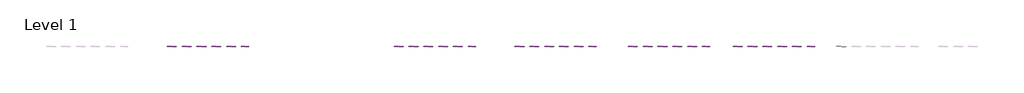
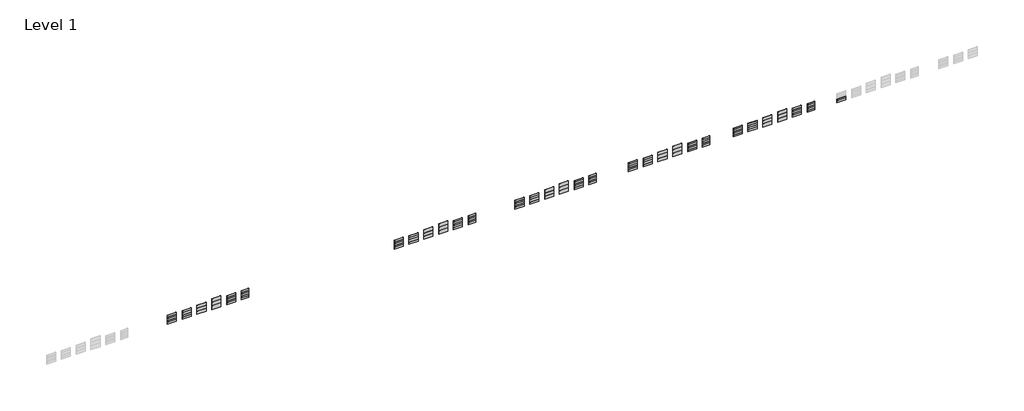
# One storey, part 4 of 7: 127 plates.
"""IFC4 building model written with IfcOpenShell, lengths in millimetres."""

from ifc_helpers import new_model, si_unit, origin, place, context, project, spatial, transform, mapped, element, save
from components import s001_satin_white_12mm_60b0a342, s001_satin_white_12mm_af0daad2, s001_satin_white_12mm_b3103b5f, plate_547342df, s001_satin_white_12mm_c1b55f6d, s001_satin_white_12mm_d668b75a, s001_satin_white_12mm_d8c75ca1, s001_satin_white_12mm_670b1509, s001_satin_white_20mm_e5290f1d, plate_eaecce36, s001_satin_white_20mm_25284a5f, plate_eb5be41b

model = new_model("IFC4")

# Units and contexts
model_context = context("Model", 3, world=origin())
ifc_project = project(units=[si_unit("LENGTHUNIT", "METRE", prefix="MILLI")], contexts=[model_context])

# Site, building, storey
site = spatial("IfcSite", under=ifc_project)
building = spatial("IfcBuilding", under=site)
storey = spatial("IfcBuildingStorey", under=building, Name="Level 1", Elevation=0.0)

# Plates
placement = place(None, origin())
s001_satin_white_12mm_shape = s001_satin_white_12mm_60b0a342(model_context)
element("IfcPlate", 1, ObjectType="Curtain-Panels_Outdoor-Material_HI-MACS_Solids : S102_Babylon-Beige_12mm", at=placement, inside=storey, context=model_context, shape_type="MappedRepresentation", body=[
    mapped(s001_satin_white_12mm_shape, transform((581315.8858072, 1061.3187116, 0.0), x_axis=(1.0, 0.0, 0.0), y_axis=(0.0, 1.0, 0.0), z_axis=(0.0, 0.0, 1.0))),
])
element("IfcPlate", 2, ObjectType="Curtain-Panels_Outdoor-Material_HI-MACS_Solids : S102_Babylon-Beige_12mm", at=placement, inside=storey, context=model_context, shape_type="MappedRepresentation", body=[
    mapped(s001_satin_white_12mm_shape, transform((581315.8858072, 1061.3187116, 760.0), x_axis=(1.0, 0.0, 0.0), y_axis=(0.0, 1.0, 0.0), z_axis=(0.0, 0.0, 1.0))),
])
element("IfcPlate", 3, ObjectType="Curtain-Panels_Outdoor-Material_HI-MACS_Solids : S102_Babylon-Beige_12mm", at=placement, inside=storey, context=model_context, shape_type="MappedRepresentation", body=[
    mapped(s001_satin_white_12mm_shape, transform((581315.8858072, 1061.3187116, 1520.0), x_axis=(1.0, 0.0, 0.0), y_axis=(0.0, 1.0, 0.0), z_axis=(0.0, 0.0, 1.0))),
])
element("IfcPlate", 4, ObjectType="Curtain-Panels_Outdoor-Material_HI-MACS_Solids : S102_Babylon-Beige_12mm", at=placement, inside=storey, context=model_context, shape_type="MappedRepresentation", body=[
    mapped(s001_satin_white_12mm_shape, transform((581315.8858072, 1061.3187116, 2280.0), x_axis=(1.0, 0.0, 0.0), y_axis=(0.0, 1.0, 0.0), z_axis=(0.0, 0.0, 1.0))),
])
s001_satin_white_12mm_2_shape = s001_satin_white_12mm_af0daad2(model_context)
element("IfcPlate", 5, ObjectType="Curtain-Panels_Outdoor-Material_HI-MACS_Solids : S102_Babylon-Beige_12mm", at=placement, inside=storey, context=model_context, shape_type="MappedRepresentation", body=[
    mapped(s001_satin_white_12mm_2_shape, transform((581315.8858072, 1061.3187116, 3040.0), x_axis=(1.0, 0.0, 0.0), y_axis=(0.0, 1.0, 0.0), z_axis=(0.0, 0.0, 1.0))),
])
s001_satin_white_12mm_3_shape = s001_satin_white_12mm_b3103b5f(model_context)
element("IfcPlate", 6, ObjectType="Curtain-Panels_Outdoor-Material_HI-MACS_Solids : S102_Babylon-Beige_12mm", at=placement, inside=storey, context=model_context, shape_type="MappedRepresentation", body=[
    mapped(s001_satin_white_12mm_3_shape, transform((587315.8858072, 1061.3187116, 0.0), x_axis=(1.0, 0.0, 0.0), y_axis=(0.0, 1.0, 0.0), z_axis=(0.0, 0.0, 1.0))),
])
element("IfcPlate", 7, ObjectType="Curtain-Panels_Outdoor-Material_HI-MACS_Solids : S102_Babylon-Beige_12mm", at=placement, inside=storey, context=model_context, shape_type="MappedRepresentation", body=[
    mapped(s001_satin_white_12mm_3_shape, transform((587315.8858072, 1061.3187116, 910.0), x_axis=(1.0, 0.0, 0.0), y_axis=(0.0, 1.0, 0.0), z_axis=(0.0, 0.0, 1.0))),
])
element("IfcPlate", 8, ObjectType="Curtain-Panels_Outdoor-Material_HI-MACS_Solids : S102_Babylon-Beige_12mm", at=placement, inside=storey, context=model_context, shape_type="MappedRepresentation", body=[
    mapped(s001_satin_white_12mm_3_shape, transform((587315.8858072, 1061.3187116, 1820.0), x_axis=(1.0, 0.0, 0.0), y_axis=(0.0, 1.0, 0.0), z_axis=(0.0, 0.0, 1.0))),
])
plate_shape = plate_547342df(model_context)
element("IfcPlate", 9, ObjectType="Curtain-Panels_Outdoor-Material_HI-MACS_Solids : S102_Babylon-Beige_12mm", at=placement, inside=storey, context=model_context, shape_type="MappedRepresentation", body=[
    mapped(plate_shape, transform((587315.8858072, 1061.3187116, 2730.0), x_axis=(1.0, 0.0, 0.0), y_axis=(0.0, 1.0, 0.0), z_axis=(0.0, 0.0, 1.0))),
])
s001_satin_white_12mm_4_shape = s001_satin_white_12mm_c1b55f6d(model_context)
element("IfcPlate", 10, ObjectType="Curtain-Panels_Outdoor-Material_HI-MACS_Solids : S102_Babylon-Beige_12mm", at=placement, inside=storey, context=model_context, shape_type="MappedRepresentation", body=[
    mapped(s001_satin_white_12mm_4_shape, transform((593315.8858072, 1061.3187116, 0.0), x_axis=(1.0, 0.0, 0.0), y_axis=(0.0, 1.0, 0.0), z_axis=(0.0, 0.0, 1.0))),
])
element("IfcPlate", 11, ObjectType="Curtain-Panels_Outdoor-Material_HI-MACS_Solids : S102_Babylon-Beige_12mm", at=placement, inside=storey, context=model_context, shape_type="MappedRepresentation", body=[
    mapped(s001_satin_white_12mm_4_shape, transform((593315.8858072, 1061.3187116, 1350.0), x_axis=(1.0, 0.0, 0.0), y_axis=(0.0, 1.0, 0.0), z_axis=(0.0, 0.0, 1.0))),
])
s001_satin_white_12mm_5_shape = s001_satin_white_12mm_d668b75a(model_context)
element("IfcPlate", 12, ObjectType="Curtain-Panels_Outdoor-Material_HI-MACS_Solids : S102_Babylon-Beige_12mm", at=placement, inside=storey, context=model_context, shape_type="MappedRepresentation", body=[
    mapped(s001_satin_white_12mm_5_shape, transform((593315.8858072, 1061.3187116, 2700.0), x_axis=(1.0, 0.0, 0.0), y_axis=(0.0, 1.0, 0.0), z_axis=(0.0, 0.0, 1.0))),
])
s001_satin_white_12mm_6_shape = s001_satin_white_12mm_d8c75ca1(model_context)
element("IfcPlate", 13, ObjectType="Curtain-Panels_Outdoor-Material_HI-MACS_Solids : S102_Babylon-Beige_12mm", at=placement, inside=storey, context=model_context, shape_type="MappedRepresentation", body=[
    mapped(s001_satin_white_12mm_6_shape, transform((599315.8858072, 1061.3187116, 0.0), x_axis=(1.0, 0.0, 0.0), y_axis=(0.0, 1.0, 0.0), z_axis=(0.0, 0.0, 1.0))),
])
element("IfcPlate", 14, ObjectType="Curtain-Panels_Outdoor-Material_HI-MACS_Solids : S102_Babylon-Beige_12mm", at=placement, inside=storey, context=model_context, shape_type="MappedRepresentation", body=[
    mapped(s001_satin_white_12mm_6_shape, transform((599315.8858072, 1061.3187116, 1520.0), x_axis=(1.0, 0.0, 0.0), y_axis=(0.0, 1.0, 0.0), z_axis=(0.0, 0.0, 1.0))),
])
s001_satin_white_12mm_7_shape = s001_satin_white_12mm_670b1509(model_context)
element("IfcPlate", 15, ObjectType="Curtain-Panels_Outdoor-Material_HI-MACS_Solids : S102_Babylon-Beige_12mm", at=placement, inside=storey, context=model_context, shape_type="MappedRepresentation", body=[
    mapped(s001_satin_white_12mm_7_shape, transform((599315.8858072, 1061.3187116, 3040.0), x_axis=(1.0, 0.0, 0.0), y_axis=(0.0, 1.0, 0.0), z_axis=(0.0, 0.0, 1.0))),
])
s001_satin_white_20mm_shape = s001_satin_white_20mm_e5290f1d(model_context)
element("IfcPlate", 16, ObjectType="Curtain-Panels_Outdoor-Material_HI-MACS_Solids : S102_Babylon-Beige_20mm", at=placement, inside=storey, context=model_context, shape_type="MappedRepresentation", body=[
    mapped(s001_satin_white_20mm_shape, transform((605315.8858072, 1061.3187116, 0.0), x_axis=(1.0, 0.0, 0.0), y_axis=(0.0, 1.0, 0.0), z_axis=(0.0, 0.0, 1.0))),
])
element("IfcPlate", 17, ObjectType="Curtain-Panels_Outdoor-Material_HI-MACS_Solids : S102_Babylon-Beige_20mm", at=placement, inside=storey, context=model_context, shape_type="MappedRepresentation", body=[
    mapped(s001_satin_white_20mm_shape, transform((605315.8858072, 1061.3187116, 760.0), x_axis=(1.0, 0.0, 0.0), y_axis=(0.0, 1.0, 0.0), z_axis=(0.0, 0.0, 1.0))),
])
element("IfcPlate", 18, ObjectType="Curtain-Panels_Outdoor-Material_HI-MACS_Solids : S102_Babylon-Beige_20mm", at=placement, inside=storey, context=model_context, shape_type="MappedRepresentation", body=[
    mapped(s001_satin_white_20mm_shape, transform((605315.8858072, 1061.3187116, 1520.0), x_axis=(1.0, 0.0, 0.0), y_axis=(0.0, 1.0, 0.0), z_axis=(0.0, 0.0, 1.0))),
])
element("IfcPlate", 19, ObjectType="Curtain-Panels_Outdoor-Material_HI-MACS_Solids : S102_Babylon-Beige_20mm", at=placement, inside=storey, context=model_context, shape_type="MappedRepresentation", body=[
    mapped(s001_satin_white_20mm_shape, transform((605315.8858072, 1061.3187116, 2280.0), x_axis=(1.0, 0.0, 0.0), y_axis=(0.0, 1.0, 0.0), z_axis=(0.0, 0.0, 1.0))),
])
plate_2_shape = plate_eaecce36(model_context)
element("IfcPlate", 20, ObjectType="Curtain-Panels_Outdoor-Material_HI-MACS_Solids : S102_Babylon-Beige_20mm", at=placement, inside=storey, context=model_context, shape_type="MappedRepresentation", body=[
    mapped(plate_2_shape, transform((605315.8858072, 1061.3187116, 3040.0), x_axis=(1.0, 0.0, 0.0), y_axis=(0.0, 1.0, 0.0), z_axis=(0.0, 0.0, 1.0))),
])
s001_satin_white_20mm_2_shape = s001_satin_white_20mm_25284a5f(model_context)
element("IfcPlate", 21, ObjectType="Curtain-Panels_Outdoor-Material_HI-MACS_Solids : S102_Babylon-Beige_20mm", at=placement, inside=storey, context=model_context, shape_type="MappedRepresentation", body=[
    mapped(s001_satin_white_20mm_2_shape, transform((610975.8858072, 1061.3187116, 0.0), x_axis=(1.0, 0.0, 0.0), y_axis=(0.0, 1.0, 0.0), z_axis=(0.0, 0.0, 1.0))),
])
element("IfcPlate", 22, ObjectType="Curtain-Panels_Outdoor-Material_HI-MACS_Solids : S102_Babylon-Beige_20mm", at=placement, inside=storey, context=model_context, shape_type="MappedRepresentation", body=[
    mapped(s001_satin_white_20mm_2_shape, transform((610975.8858072, 1061.3187116, 760.0), x_axis=(1.0, 0.0, 0.0), y_axis=(0.0, 1.0, 0.0), z_axis=(0.0, 0.0, 1.0))),
])
element("IfcPlate", 23, ObjectType="Curtain-Panels_Outdoor-Material_HI-MACS_Solids : S102_Babylon-Beige_20mm", at=placement, inside=storey, context=model_context, shape_type="MappedRepresentation", body=[
    mapped(s001_satin_white_20mm_2_shape, transform((610975.8858072, 1061.3187116, 1520.0), x_axis=(1.0, 0.0, 0.0), y_axis=(0.0, 1.0, 0.0), z_axis=(0.0, 0.0, 1.0))),
])
element("IfcPlate", 24, ObjectType="Curtain-Panels_Outdoor-Material_HI-MACS_Solids : S102_Babylon-Beige_20mm", at=placement, inside=storey, context=model_context, shape_type="MappedRepresentation", body=[
    mapped(s001_satin_white_20mm_2_shape, transform((610975.8858072, 1061.3187116, 2280.0), x_axis=(1.0, 0.0, 0.0), y_axis=(0.0, 1.0, 0.0), z_axis=(0.0, 0.0, 1.0))),
])
plate_3_shape = plate_eb5be41b(model_context)
element("IfcPlate", 25, ObjectType="Curtain-Panels_Outdoor-Material_HI-MACS_Solids : S102_Babylon-Beige_20mm", at=placement, inside=storey, context=model_context, shape_type="MappedRepresentation", body=[
    mapped(plate_3_shape, transform((610975.8858072, 1061.3187116, 3040.0), x_axis=(1.0, 0.0, 0.0), y_axis=(0.0, 1.0, 0.0), z_axis=(0.0, 0.0, 1.0))),
])
element("IfcPlate", 26, ObjectType="Curtain-Panels_Outdoor-Material_HI-MACS_Solids : S104_Toffee-Brown_12mm", at=placement, inside=storey, context=model_context, shape_type="MappedRepresentation", body=[
    mapped(s001_satin_white_12mm_shape, transform((665815.8858072, 1061.3187116, 0.0), x_axis=(1.0, 0.0, 0.0), y_axis=(0.0, 1.0, 0.0), z_axis=(0.0, 0.0, 1.0))),
])
element("IfcPlate", 27, ObjectType="Curtain-Panels_Outdoor-Material_HI-MACS_Solids : S104_Toffee-Brown_12mm", at=placement, inside=storey, context=model_context, shape_type="MappedRepresentation", body=[
    mapped(s001_satin_white_12mm_shape, transform((665815.8858072, 1061.3187116, 760.0), x_axis=(1.0, 0.0, 0.0), y_axis=(0.0, 1.0, 0.0), z_axis=(0.0, 0.0, 1.0))),
])
element("IfcPlate", 28, ObjectType="Curtain-Panels_Outdoor-Material_HI-MACS_Solids : S029_Ivory-White_12mm", at=placement, inside=storey, context=model_context, shape_type="MappedRepresentation", body=[
    mapped(s001_satin_white_12mm_shape, transform((394315.8858072, 1061.3187116, 0.0), x_axis=(1.0, 0.0, 0.0), y_axis=(0.0, 1.0, 0.0), z_axis=(0.0, 0.0, 1.0))),
])
element("IfcPlate", 29, ObjectType="Curtain-Panels_Outdoor-Material_HI-MACS_Solids : S029_Ivory-White_12mm", at=placement, inside=storey, context=model_context, shape_type="MappedRepresentation", body=[
    mapped(s001_satin_white_12mm_shape, transform((394315.8858072, 1061.3187116, 760.0), x_axis=(1.0, 0.0, 0.0), y_axis=(0.0, 1.0, 0.0), z_axis=(0.0, 0.0, 1.0))),
])
element("IfcPlate", 30, ObjectType="Curtain-Panels_Outdoor-Material_HI-MACS_Solids : S029_Ivory-White_12mm", at=placement, inside=storey, context=model_context, shape_type="MappedRepresentation", body=[
    mapped(s001_satin_white_12mm_shape, transform((394315.8858072, 1061.3187116, 1520.0), x_axis=(1.0, 0.0, 0.0), y_axis=(0.0, 1.0, 0.0), z_axis=(0.0, 0.0, 1.0))),
])
element("IfcPlate", 31, ObjectType="Curtain-Panels_Outdoor-Material_HI-MACS_Solids : S029_Ivory-White_12mm", at=placement, inside=storey, context=model_context, shape_type="MappedRepresentation", body=[
    mapped(s001_satin_white_12mm_shape, transform((394315.8858072, 1061.3187116, 2280.0), x_axis=(1.0, 0.0, 0.0), y_axis=(0.0, 1.0, 0.0), z_axis=(0.0, 0.0, 1.0))),
])
element("IfcPlate", 32, ObjectType="Curtain-Panels_Outdoor-Material_HI-MACS_Solids : S029_Ivory-White_12mm", at=placement, inside=storey, context=model_context, shape_type="MappedRepresentation", body=[
    mapped(s001_satin_white_12mm_2_shape, transform((394315.8858072, 1061.3187116, 3040.0), x_axis=(1.0, 0.0, 0.0), y_axis=(0.0, 1.0, 0.0), z_axis=(0.0, 0.0, 1.0))),
])
element("IfcPlate", 33, ObjectType="Curtain-Panels_Outdoor-Material_HI-MACS_Solids : S029_Ivory-White_12mm", at=placement, inside=storey, context=model_context, shape_type="MappedRepresentation", body=[
    mapped(s001_satin_white_12mm_3_shape, transform((400315.8858072, 1061.3187116, 0.0), x_axis=(1.0, 0.0, 0.0), y_axis=(0.0, 1.0, 0.0), z_axis=(0.0, 0.0, 1.0))),
])
element("IfcPlate", 34, ObjectType="Curtain-Panels_Outdoor-Material_HI-MACS_Solids : S029_Ivory-White_12mm", at=placement, inside=storey, context=model_context, shape_type="MappedRepresentation", body=[
    mapped(s001_satin_white_12mm_3_shape, transform((400315.8858072, 1061.3187116, 910.0), x_axis=(1.0, 0.0, 0.0), y_axis=(0.0, 1.0, 0.0), z_axis=(0.0, 0.0, 1.0))),
])
element("IfcPlate", 35, ObjectType="Curtain-Panels_Outdoor-Material_HI-MACS_Solids : S029_Ivory-White_12mm", at=placement, inside=storey, context=model_context, shape_type="MappedRepresentation", body=[
    mapped(s001_satin_white_12mm_3_shape, transform((400315.8858072, 1061.3187116, 1820.0), x_axis=(1.0, 0.0, 0.0), y_axis=(0.0, 1.0, 0.0), z_axis=(0.0, 0.0, 1.0))),
])
element("IfcPlate", 36, ObjectType="Curtain-Panels_Outdoor-Material_HI-MACS_Solids : S029_Ivory-White_12mm", at=placement, inside=storey, context=model_context, shape_type="MappedRepresentation", body=[
    mapped(plate_shape, transform((400315.8858072, 1061.3187116, 2730.0), x_axis=(1.0, 0.0, 0.0), y_axis=(0.0, 1.0, 0.0), z_axis=(0.0, 0.0, 1.0))),
])
element("IfcPlate", 37, ObjectType="Curtain-Panels_Outdoor-Material_HI-MACS_Solids : S029_Ivory-White_12mm", at=placement, inside=storey, context=model_context, shape_type="MappedRepresentation", body=[
    mapped(s001_satin_white_12mm_4_shape, transform((406315.8858072, 1061.3187116, 0.0), x_axis=(1.0, 0.0, 0.0), y_axis=(0.0, 1.0, 0.0), z_axis=(0.0, 0.0, 1.0))),
])
element("IfcPlate", 38, ObjectType="Curtain-Panels_Outdoor-Material_HI-MACS_Solids : S029_Ivory-White_12mm", at=placement, inside=storey, context=model_context, shape_type="MappedRepresentation", body=[
    mapped(s001_satin_white_12mm_4_shape, transform((406315.8858072, 1061.3187116, 1350.0), x_axis=(1.0, 0.0, 0.0), y_axis=(0.0, 1.0, 0.0), z_axis=(0.0, 0.0, 1.0))),
])
element("IfcPlate", 39, ObjectType="Curtain-Panels_Outdoor-Material_HI-MACS_Solids : S029_Ivory-White_12mm", at=placement, inside=storey, context=model_context, shape_type="MappedRepresentation", body=[
    mapped(s001_satin_white_12mm_5_shape, transform((406315.8858072, 1061.3187116, 2700.0), x_axis=(1.0, 0.0, 0.0), y_axis=(0.0, 1.0, 0.0), z_axis=(0.0, 0.0, 1.0))),
])
element("IfcPlate", 40, ObjectType="Curtain-Panels_Outdoor-Material_HI-MACS_Solids : S029_Ivory-White_12mm", at=placement, inside=storey, context=model_context, shape_type="MappedRepresentation", body=[
    mapped(s001_satin_white_12mm_6_shape, transform((412315.8858072, 1061.3187116, 0.0), x_axis=(1.0, 0.0, 0.0), y_axis=(0.0, 1.0, 0.0), z_axis=(0.0, 0.0, 1.0))),
])
element("IfcPlate", 41, ObjectType="Curtain-Panels_Outdoor-Material_HI-MACS_Solids : S029_Ivory-White_12mm", at=placement, inside=storey, context=model_context, shape_type="MappedRepresentation", body=[
    mapped(s001_satin_white_12mm_6_shape, transform((412315.8858072, 1061.3187116, 1520.0), x_axis=(1.0, 0.0, 0.0), y_axis=(0.0, 1.0, 0.0), z_axis=(0.0, 0.0, 1.0))),
])
element("IfcPlate", 42, ObjectType="Curtain-Panels_Outdoor-Material_HI-MACS_Solids : S029_Ivory-White_12mm", at=placement, inside=storey, context=model_context, shape_type="MappedRepresentation", body=[
    mapped(s001_satin_white_12mm_7_shape, transform((412315.8858072, 1061.3187116, 3040.0), x_axis=(1.0, 0.0, 0.0), y_axis=(0.0, 1.0, 0.0), z_axis=(0.0, 0.0, 1.0))),
])
element("IfcPlate", 43, ObjectType="Curtain-Panels_Outdoor-Material_HI-MACS_Solids : S029_Ivory-White_20mm", at=placement, inside=storey, context=model_context, shape_type="MappedRepresentation", body=[
    mapped(s001_satin_white_20mm_shape, transform((418315.8858072, 1061.3187116, 0.0), x_axis=(1.0, 0.0, 0.0), y_axis=(0.0, 1.0, 0.0), z_axis=(0.0, 0.0, 1.0))),
])
element("IfcPlate", 44, ObjectType="Curtain-Panels_Outdoor-Material_HI-MACS_Solids : S029_Ivory-White_20mm", at=placement, inside=storey, context=model_context, shape_type="MappedRepresentation", body=[
    mapped(s001_satin_white_20mm_shape, transform((418315.8858072, 1061.3187116, 760.0), x_axis=(1.0, 0.0, 0.0), y_axis=(0.0, 1.0, 0.0), z_axis=(0.0, 0.0, 1.0))),
])
element("IfcPlate", 45, ObjectType="Curtain-Panels_Outdoor-Material_HI-MACS_Solids : S029_Ivory-White_20mm", at=placement, inside=storey, context=model_context, shape_type="MappedRepresentation", body=[
    mapped(s001_satin_white_20mm_shape, transform((418315.8858072, 1061.3187116, 1520.0), x_axis=(1.0, 0.0, 0.0), y_axis=(0.0, 1.0, 0.0), z_axis=(0.0, 0.0, 1.0))),
])
element("IfcPlate", 46, ObjectType="Curtain-Panels_Outdoor-Material_HI-MACS_Solids : S029_Ivory-White_20mm", at=placement, inside=storey, context=model_context, shape_type="MappedRepresentation", body=[
    mapped(s001_satin_white_20mm_shape, transform((418315.8858072, 1061.3187116, 2280.0), x_axis=(1.0, 0.0, 0.0), y_axis=(0.0, 1.0, 0.0), z_axis=(0.0, 0.0, 1.0))),
])
element("IfcPlate", 47, ObjectType="Curtain-Panels_Outdoor-Material_HI-MACS_Solids : S029_Ivory-White_20mm", at=placement, inside=storey, context=model_context, shape_type="MappedRepresentation", body=[
    mapped(plate_2_shape, transform((418315.8858072, 1061.3187116, 3040.0), x_axis=(1.0, 0.0, 0.0), y_axis=(0.0, 1.0, 0.0), z_axis=(0.0, 0.0, 1.0))),
])
element("IfcPlate", 48, ObjectType="Curtain-Panels_Outdoor-Material_HI-MACS_Solids : S029_Ivory-White_20mm", at=placement, inside=storey, context=model_context, shape_type="MappedRepresentation", body=[
    mapped(s001_satin_white_20mm_2_shape, transform((423975.8858072, 1061.3187116, 0.0), x_axis=(1.0, 0.0, 0.0), y_axis=(0.0, 1.0, 0.0), z_axis=(0.0, 0.0, 1.0))),
])
element("IfcPlate", 49, ObjectType="Curtain-Panels_Outdoor-Material_HI-MACS_Solids : S029_Ivory-White_20mm", at=placement, inside=storey, context=model_context, shape_type="MappedRepresentation", body=[
    mapped(s001_satin_white_20mm_2_shape, transform((423975.8858072, 1061.3187116, 760.0), x_axis=(1.0, 0.0, 0.0), y_axis=(0.0, 1.0, 0.0), z_axis=(0.0, 0.0, 1.0))),
])
element("IfcPlate", 50, ObjectType="Curtain-Panels_Outdoor-Material_HI-MACS_Solids : S029_Ivory-White_20mm", at=placement, inside=storey, context=model_context, shape_type="MappedRepresentation", body=[
    mapped(s001_satin_white_20mm_2_shape, transform((423975.8858072, 1061.3187116, 1520.0), x_axis=(1.0, 0.0, 0.0), y_axis=(0.0, 1.0, 0.0), z_axis=(0.0, 0.0, 1.0))),
])
element("IfcPlate", 51, ObjectType="Curtain-Panels_Outdoor-Material_HI-MACS_Solids : S029_Ivory-White_20mm", at=placement, inside=storey, context=model_context, shape_type="MappedRepresentation", body=[
    mapped(s001_satin_white_20mm_2_shape, transform((423975.8858072, 1061.3187116, 2280.0), x_axis=(1.0, 0.0, 0.0), y_axis=(0.0, 1.0, 0.0), z_axis=(0.0, 0.0, 1.0))),
])
element("IfcPlate", 52, ObjectType="Curtain-Panels_Outdoor-Material_HI-MACS_Solids : S029_Ivory-White_20mm", at=placement, inside=storey, context=model_context, shape_type="MappedRepresentation", body=[
    mapped(plate_3_shape, transform((423975.8858072, 1061.3187116, 3040.0), x_axis=(1.0, 0.0, 0.0), y_axis=(0.0, 1.0, 0.0), z_axis=(0.0, 0.0, 1.0))),
])
element("IfcPlate", 53, ObjectType="Curtain-Panels_Outdoor-Material_HI-MACS_Solids : S034_Diamond-White_12mm", at=placement, inside=storey, context=model_context, shape_type="MappedRepresentation", body=[
    mapped(s001_satin_white_12mm_shape, transform((486315.8858072, 1061.3187116, 0.0), x_axis=(1.0, 0.0, 0.0), y_axis=(0.0, 1.0, 0.0), z_axis=(0.0, 0.0, 1.0))),
])
element("IfcPlate", 54, ObjectType="Curtain-Panels_Outdoor-Material_HI-MACS_Solids : S034_Diamond-White_12mm", at=placement, inside=storey, context=model_context, shape_type="MappedRepresentation", body=[
    mapped(s001_satin_white_12mm_shape, transform((486315.8858072, 1061.3187116, 760.0), x_axis=(1.0, 0.0, 0.0), y_axis=(0.0, 1.0, 0.0), z_axis=(0.0, 0.0, 1.0))),
])
element("IfcPlate", 55, ObjectType="Curtain-Panels_Outdoor-Material_HI-MACS_Solids : S034_Diamond-White_12mm", at=placement, inside=storey, context=model_context, shape_type="MappedRepresentation", body=[
    mapped(s001_satin_white_12mm_shape, transform((486315.8858072, 1061.3187116, 1520.0), x_axis=(1.0, 0.0, 0.0), y_axis=(0.0, 1.0, 0.0), z_axis=(0.0, 0.0, 1.0))),
])
element("IfcPlate", 56, ObjectType="Curtain-Panels_Outdoor-Material_HI-MACS_Solids : S034_Diamond-White_12mm", at=placement, inside=storey, context=model_context, shape_type="MappedRepresentation", body=[
    mapped(s001_satin_white_12mm_shape, transform((486315.8858072, 1061.3187116, 2280.0), x_axis=(1.0, 0.0, 0.0), y_axis=(0.0, 1.0, 0.0), z_axis=(0.0, 0.0, 1.0))),
])
element("IfcPlate", 57, ObjectType="Curtain-Panels_Outdoor-Material_HI-MACS_Solids : S034_Diamond-White_12mm", at=placement, inside=storey, context=model_context, shape_type="MappedRepresentation", body=[
    mapped(s001_satin_white_12mm_2_shape, transform((486315.8858072, 1061.3187116, 3040.0), x_axis=(1.0, 0.0, 0.0), y_axis=(0.0, 1.0, 0.0), z_axis=(0.0, 0.0, 1.0))),
])
element("IfcPlate", 58, ObjectType="Curtain-Panels_Outdoor-Material_HI-MACS_Solids : S034_Diamond-White_12mm", at=placement, inside=storey, context=model_context, shape_type="MappedRepresentation", body=[
    mapped(s001_satin_white_12mm_3_shape, transform((492315.8858072, 1061.3187116, 0.0), x_axis=(1.0, 0.0, 0.0), y_axis=(0.0, 1.0, 0.0), z_axis=(0.0, 0.0, 1.0))),
])
element("IfcPlate", 59, ObjectType="Curtain-Panels_Outdoor-Material_HI-MACS_Solids : S034_Diamond-White_12mm", at=placement, inside=storey, context=model_context, shape_type="MappedRepresentation", body=[
    mapped(s001_satin_white_12mm_3_shape, transform((492315.8858072, 1061.3187116, 910.0), x_axis=(1.0, 0.0, 0.0), y_axis=(0.0, 1.0, 0.0), z_axis=(0.0, 0.0, 1.0))),
])
element("IfcPlate", 60, ObjectType="Curtain-Panels_Outdoor-Material_HI-MACS_Solids : S034_Diamond-White_12mm", at=placement, inside=storey, context=model_context, shape_type="MappedRepresentation", body=[
    mapped(s001_satin_white_12mm_3_shape, transform((492315.8858072, 1061.3187116, 1820.0), x_axis=(1.0, 0.0, 0.0), y_axis=(0.0, 1.0, 0.0), z_axis=(0.0, 0.0, 1.0))),
])
element("IfcPlate", 61, ObjectType="Curtain-Panels_Outdoor-Material_HI-MACS_Solids : S034_Diamond-White_12mm", at=placement, inside=storey, context=model_context, shape_type="MappedRepresentation", body=[
    mapped(plate_shape, transform((492315.8858072, 1061.3187116, 2730.0), x_axis=(1.0, 0.0, 0.0), y_axis=(0.0, 1.0, 0.0), z_axis=(0.0, 0.0, 1.0))),
])
element("IfcPlate", 62, ObjectType="Curtain-Panels_Outdoor-Material_HI-MACS_Solids : S034_Diamond-White_12mm", at=placement, inside=storey, context=model_context, shape_type="MappedRepresentation", body=[
    mapped(s001_satin_white_12mm_4_shape, transform((498315.8858072, 1061.3187116, 0.0), x_axis=(1.0, 0.0, 0.0), y_axis=(0.0, 1.0, 0.0), z_axis=(0.0, 0.0, 1.0))),
])
element("IfcPlate", 63, ObjectType="Curtain-Panels_Outdoor-Material_HI-MACS_Solids : S034_Diamond-White_12mm", at=placement, inside=storey, context=model_context, shape_type="MappedRepresentation", body=[
    mapped(s001_satin_white_12mm_4_shape, transform((498315.8858072, 1061.3187116, 1350.0), x_axis=(1.0, 0.0, 0.0), y_axis=(0.0, 1.0, 0.0), z_axis=(0.0, 0.0, 1.0))),
])
element("IfcPlate", 64, ObjectType="Curtain-Panels_Outdoor-Material_HI-MACS_Solids : S034_Diamond-White_12mm", at=placement, inside=storey, context=model_context, shape_type="MappedRepresentation", body=[
    mapped(s001_satin_white_12mm_5_shape, transform((498315.8858072, 1061.3187116, 2700.0), x_axis=(1.0, 0.0, 0.0), y_axis=(0.0, 1.0, 0.0), z_axis=(0.0, 0.0, 1.0))),
])
element("IfcPlate", 65, ObjectType="Curtain-Panels_Outdoor-Material_HI-MACS_Solids : S034_Diamond-White_12mm", at=placement, inside=storey, context=model_context, shape_type="MappedRepresentation", body=[
    mapped(s001_satin_white_12mm_6_shape, transform((504315.8858072, 1061.3187116, 0.0), x_axis=(1.0, 0.0, 0.0), y_axis=(0.0, 1.0, 0.0), z_axis=(0.0, 0.0, 1.0))),
])
element("IfcPlate", 66, ObjectType="Curtain-Panels_Outdoor-Material_HI-MACS_Solids : S034_Diamond-White_12mm", at=placement, inside=storey, context=model_context, shape_type="MappedRepresentation", body=[
    mapped(s001_satin_white_12mm_6_shape, transform((504315.8858072, 1061.3187116, 1520.0), x_axis=(1.0, 0.0, 0.0), y_axis=(0.0, 1.0, 0.0), z_axis=(0.0, 0.0, 1.0))),
])
element("IfcPlate", 67, ObjectType="Curtain-Panels_Outdoor-Material_HI-MACS_Solids : S034_Diamond-White_12mm", at=placement, inside=storey, context=model_context, shape_type="MappedRepresentation", body=[
    mapped(s001_satin_white_12mm_7_shape, transform((504315.8858072, 1061.3187116, 3040.0), x_axis=(1.0, 0.0, 0.0), y_axis=(0.0, 1.0, 0.0), z_axis=(0.0, 0.0, 1.0))),
])
element("IfcPlate", 68, ObjectType="Curtain-Panels_Outdoor-Material_HI-MACS_Solids : S034_Diamond-White_20mm", at=placement, inside=storey, context=model_context, shape_type="MappedRepresentation", body=[
    mapped(s001_satin_white_20mm_shape, transform((510315.8858072, 1061.3187116, 0.0), x_axis=(1.0, 0.0, 0.0), y_axis=(0.0, 1.0, 0.0), z_axis=(0.0, 0.0, 1.0))),
])
element("IfcPlate", 69, ObjectType="Curtain-Panels_Outdoor-Material_HI-MACS_Solids : S034_Diamond-White_20mm", at=placement, inside=storey, context=model_context, shape_type="MappedRepresentation", body=[
    mapped(s001_satin_white_20mm_shape, transform((510315.8858072, 1061.3187116, 760.0), x_axis=(1.0, 0.0, 0.0), y_axis=(0.0, 1.0, 0.0), z_axis=(0.0, 0.0, 1.0))),
])
element("IfcPlate", 70, ObjectType="Curtain-Panels_Outdoor-Material_HI-MACS_Solids : S034_Diamond-White_20mm", at=placement, inside=storey, context=model_context, shape_type="MappedRepresentation", body=[
    mapped(s001_satin_white_20mm_shape, transform((510315.8858072, 1061.3187116, 1520.0), x_axis=(1.0, 0.0, 0.0), y_axis=(0.0, 1.0, 0.0), z_axis=(0.0, 0.0, 1.0))),
])
element("IfcPlate", 71, ObjectType="Curtain-Panels_Outdoor-Material_HI-MACS_Solids : S034_Diamond-White_20mm", at=placement, inside=storey, context=model_context, shape_type="MappedRepresentation", body=[
    mapped(s001_satin_white_20mm_shape, transform((510315.8858072, 1061.3187116, 2280.0), x_axis=(1.0, 0.0, 0.0), y_axis=(0.0, 1.0, 0.0), z_axis=(0.0, 0.0, 1.0))),
])
element("IfcPlate", 72, ObjectType="Curtain-Panels_Outdoor-Material_HI-MACS_Solids : S034_Diamond-White_20mm", at=placement, inside=storey, context=model_context, shape_type="MappedRepresentation", body=[
    mapped(plate_2_shape, transform((510315.8858072, 1061.3187116, 3040.0), x_axis=(1.0, 0.0, 0.0), y_axis=(0.0, 1.0, 0.0), z_axis=(0.0, 0.0, 1.0))),
])
element("IfcPlate", 73, ObjectType="Curtain-Panels_Outdoor-Material_HI-MACS_Solids : S034_Diamond-White_20mm", at=placement, inside=storey, context=model_context, shape_type="MappedRepresentation", body=[
    mapped(s001_satin_white_20mm_2_shape, transform((515975.8858072, 1061.3187116, 0.0), x_axis=(1.0, 0.0, 0.0), y_axis=(0.0, 1.0, 0.0), z_axis=(0.0, 0.0, 1.0))),
])
element("IfcPlate", 74, ObjectType="Curtain-Panels_Outdoor-Material_HI-MACS_Solids : S034_Diamond-White_20mm", at=placement, inside=storey, context=model_context, shape_type="MappedRepresentation", body=[
    mapped(s001_satin_white_20mm_2_shape, transform((515975.8858072, 1061.3187116, 760.0), x_axis=(1.0, 0.0, 0.0), y_axis=(0.0, 1.0, 0.0), z_axis=(0.0, 0.0, 1.0))),
])
element("IfcPlate", 75, ObjectType="Curtain-Panels_Outdoor-Material_HI-MACS_Solids : S034_Diamond-White_20mm", at=placement, inside=storey, context=model_context, shape_type="MappedRepresentation", body=[
    mapped(s001_satin_white_20mm_2_shape, transform((515975.8858072, 1061.3187116, 1520.0), x_axis=(1.0, 0.0, 0.0), y_axis=(0.0, 1.0, 0.0), z_axis=(0.0, 0.0, 1.0))),
])
element("IfcPlate", 76, ObjectType="Curtain-Panels_Outdoor-Material_HI-MACS_Solids : S034_Diamond-White_20mm", at=placement, inside=storey, context=model_context, shape_type="MappedRepresentation", body=[
    mapped(s001_satin_white_20mm_2_shape, transform((515975.8858072, 1061.3187116, 2280.0), x_axis=(1.0, 0.0, 0.0), y_axis=(0.0, 1.0, 0.0), z_axis=(0.0, 0.0, 1.0))),
])
element("IfcPlate", 77, ObjectType="Curtain-Panels_Outdoor-Material_HI-MACS_Solids : S034_Diamond-White_20mm", at=placement, inside=storey, context=model_context, shape_type="MappedRepresentation", body=[
    mapped(plate_3_shape, transform((515975.8858072, 1061.3187116, 3040.0), x_axis=(1.0, 0.0, 0.0), y_axis=(0.0, 1.0, 0.0), z_axis=(0.0, 0.0, 1.0))),
])
element("IfcPlate", 78, ObjectType="Curtain-Panels_Outdoor-Material_HI-MACS_Solids : S100_Coffee-Brown_12mm", at=placement, inside=storey, context=model_context, shape_type="MappedRepresentation", body=[
    mapped(s001_satin_white_12mm_shape, transform((535315.8858072, 1061.3187116, 0.0), x_axis=(1.0, 0.0, 0.0), y_axis=(0.0, 1.0, 0.0), z_axis=(0.0, 0.0, 1.0))),
])
element("IfcPlate", 79, ObjectType="Curtain-Panels_Outdoor-Material_HI-MACS_Solids : S100_Coffee-Brown_12mm", at=placement, inside=storey, context=model_context, shape_type="MappedRepresentation", body=[
    mapped(s001_satin_white_12mm_shape, transform((535315.8858072, 1061.3187116, 760.0), x_axis=(1.0, 0.0, 0.0), y_axis=(0.0, 1.0, 0.0), z_axis=(0.0, 0.0, 1.0))),
])
element("IfcPlate", 80, ObjectType="Curtain-Panels_Outdoor-Material_HI-MACS_Solids : S100_Coffee-Brown_12mm", at=placement, inside=storey, context=model_context, shape_type="MappedRepresentation", body=[
    mapped(s001_satin_white_12mm_shape, transform((535315.8858072, 1061.3187116, 1520.0), x_axis=(1.0, 0.0, 0.0), y_axis=(0.0, 1.0, 0.0), z_axis=(0.0, 0.0, 1.0))),
])
element("IfcPlate", 81, ObjectType="Curtain-Panels_Outdoor-Material_HI-MACS_Solids : S100_Coffee-Brown_12mm", at=placement, inside=storey, context=model_context, shape_type="MappedRepresentation", body=[
    mapped(s001_satin_white_12mm_shape, transform((535315.8858072, 1061.3187116, 2280.0), x_axis=(1.0, 0.0, 0.0), y_axis=(0.0, 1.0, 0.0), z_axis=(0.0, 0.0, 1.0))),
])
element("IfcPlate", 82, ObjectType="Curtain-Panels_Outdoor-Material_HI-MACS_Solids : S100_Coffee-Brown_12mm", at=placement, inside=storey, context=model_context, shape_type="MappedRepresentation", body=[
    mapped(s001_satin_white_12mm_2_shape, transform((535315.8858072, 1061.3187116, 3040.0), x_axis=(1.0, 0.0, 0.0), y_axis=(0.0, 1.0, 0.0), z_axis=(0.0, 0.0, 1.0))),
])
element("IfcPlate", 83, ObjectType="Curtain-Panels_Outdoor-Material_HI-MACS_Solids : S100_Coffee-Brown_12mm", at=placement, inside=storey, context=model_context, shape_type="MappedRepresentation", body=[
    mapped(s001_satin_white_12mm_3_shape, transform((541315.8858072, 1061.3187116, 0.0), x_axis=(1.0, 0.0, 0.0), y_axis=(0.0, 1.0, 0.0), z_axis=(0.0, 0.0, 1.0))),
])
element("IfcPlate", 84, ObjectType="Curtain-Panels_Outdoor-Material_HI-MACS_Solids : S100_Coffee-Brown_12mm", at=placement, inside=storey, context=model_context, shape_type="MappedRepresentation", body=[
    mapped(s001_satin_white_12mm_3_shape, transform((541315.8858072, 1061.3187116, 910.0), x_axis=(1.0, 0.0, 0.0), y_axis=(0.0, 1.0, 0.0), z_axis=(0.0, 0.0, 1.0))),
])
element("IfcPlate", 85, ObjectType="Curtain-Panels_Outdoor-Material_HI-MACS_Solids : S100_Coffee-Brown_12mm", at=placement, inside=storey, context=model_context, shape_type="MappedRepresentation", body=[
    mapped(s001_satin_white_12mm_3_shape, transform((541315.8858072, 1061.3187116, 1820.0), x_axis=(1.0, 0.0, 0.0), y_axis=(0.0, 1.0, 0.0), z_axis=(0.0, 0.0, 1.0))),
])
element("IfcPlate", 86, ObjectType="Curtain-Panels_Outdoor-Material_HI-MACS_Solids : S100_Coffee-Brown_12mm", at=placement, inside=storey, context=model_context, shape_type="MappedRepresentation", body=[
    mapped(plate_shape, transform((541315.8858072, 1061.3187116, 2730.0), x_axis=(1.0, 0.0, 0.0), y_axis=(0.0, 1.0, 0.0), z_axis=(0.0, 0.0, 1.0))),
])
element("IfcPlate", 87, ObjectType="Curtain-Panels_Outdoor-Material_HI-MACS_Solids : S100_Coffee-Brown_12mm", at=placement, inside=storey, context=model_context, shape_type="MappedRepresentation", body=[
    mapped(s001_satin_white_12mm_4_shape, transform((547315.8858072, 1061.3187116, 0.0), x_axis=(1.0, 0.0, 0.0), y_axis=(0.0, 1.0, 0.0), z_axis=(0.0, 0.0, 1.0))),
])
element("IfcPlate", 88, ObjectType="Curtain-Panels_Outdoor-Material_HI-MACS_Solids : S100_Coffee-Brown_12mm", at=placement, inside=storey, context=model_context, shape_type="MappedRepresentation", body=[
    mapped(s001_satin_white_12mm_4_shape, transform((547315.8858072, 1061.3187116, 1350.0), x_axis=(1.0, 0.0, 0.0), y_axis=(0.0, 1.0, 0.0), z_axis=(0.0, 0.0, 1.0))),
])
element("IfcPlate", 89, ObjectType="Curtain-Panels_Outdoor-Material_HI-MACS_Solids : S100_Coffee-Brown_12mm", at=placement, inside=storey, context=model_context, shape_type="MappedRepresentation", body=[
    mapped(s001_satin_white_12mm_5_shape, transform((547315.8858072, 1061.3187116, 2700.0), x_axis=(1.0, 0.0, 0.0), y_axis=(0.0, 1.0, 0.0), z_axis=(0.0, 0.0, 1.0))),
])
element("IfcPlate", 90, ObjectType="Curtain-Panels_Outdoor-Material_HI-MACS_Solids : S100_Coffee-Brown_12mm", at=placement, inside=storey, context=model_context, shape_type="MappedRepresentation", body=[
    mapped(s001_satin_white_12mm_6_shape, transform((553315.8858072, 1061.3187116, 0.0), x_axis=(1.0, 0.0, 0.0), y_axis=(0.0, 1.0, 0.0), z_axis=(0.0, 0.0, 1.0))),
])
element("IfcPlate", 91, ObjectType="Curtain-Panels_Outdoor-Material_HI-MACS_Solids : S100_Coffee-Brown_12mm", at=placement, inside=storey, context=model_context, shape_type="MappedRepresentation", body=[
    mapped(s001_satin_white_12mm_6_shape, transform((553315.8858072, 1061.3187116, 1520.0), x_axis=(1.0, 0.0, 0.0), y_axis=(0.0, 1.0, 0.0), z_axis=(0.0, 0.0, 1.0))),
])
element("IfcPlate", 92, ObjectType="Curtain-Panels_Outdoor-Material_HI-MACS_Solids : S100_Coffee-Brown_12mm", at=placement, inside=storey, context=model_context, shape_type="MappedRepresentation", body=[
    mapped(s001_satin_white_12mm_7_shape, transform((553315.8858072, 1061.3187116, 3040.0), x_axis=(1.0, 0.0, 0.0), y_axis=(0.0, 1.0, 0.0), z_axis=(0.0, 0.0, 1.0))),
])
element("IfcPlate", 93, ObjectType="Curtain-Panels_Outdoor-Material_HI-MACS_Solids : S100_Coffee-Brown_20mm", at=placement, inside=storey, context=model_context, shape_type="MappedRepresentation", body=[
    mapped(s001_satin_white_20mm_shape, transform((559315.8858072, 1061.3187116, 0.0), x_axis=(1.0, 0.0, 0.0), y_axis=(0.0, 1.0, 0.0), z_axis=(0.0, 0.0, 1.0))),
])
element("IfcPlate", 94, ObjectType="Curtain-Panels_Outdoor-Material_HI-MACS_Solids : S100_Coffee-Brown_20mm", at=placement, inside=storey, context=model_context, shape_type="MappedRepresentation", body=[
    mapped(s001_satin_white_20mm_shape, transform((559315.8858072, 1061.3187116, 760.0), x_axis=(1.0, 0.0, 0.0), y_axis=(0.0, 1.0, 0.0), z_axis=(0.0, 0.0, 1.0))),
])
element("IfcPlate", 95, ObjectType="Curtain-Panels_Outdoor-Material_HI-MACS_Solids : S100_Coffee-Brown_20mm", at=placement, inside=storey, context=model_context, shape_type="MappedRepresentation", body=[
    mapped(s001_satin_white_20mm_shape, transform((559315.8858072, 1061.3187116, 1520.0), x_axis=(1.0, 0.0, 0.0), y_axis=(0.0, 1.0, 0.0), z_axis=(0.0, 0.0, 1.0))),
])
element("IfcPlate", 96, ObjectType="Curtain-Panels_Outdoor-Material_HI-MACS_Solids : S100_Coffee-Brown_20mm", at=placement, inside=storey, context=model_context, shape_type="MappedRepresentation", body=[
    mapped(s001_satin_white_20mm_shape, transform((559315.8858072, 1061.3187116, 2280.0), x_axis=(1.0, 0.0, 0.0), y_axis=(0.0, 1.0, 0.0), z_axis=(0.0, 0.0, 1.0))),
])
element("IfcPlate", 97, ObjectType="Curtain-Panels_Outdoor-Material_HI-MACS_Solids : S100_Coffee-Brown_20mm", at=placement, inside=storey, context=model_context, shape_type="MappedRepresentation", body=[
    mapped(plate_2_shape, transform((559315.8858072, 1061.3187116, 3040.0), x_axis=(1.0, 0.0, 0.0), y_axis=(0.0, 1.0, 0.0), z_axis=(0.0, 0.0, 1.0))),
])
element("IfcPlate", 98, ObjectType="Curtain-Panels_Outdoor-Material_HI-MACS_Solids : S100_Coffee-Brown_20mm", at=placement, inside=storey, context=model_context, shape_type="MappedRepresentation", body=[
    mapped(s001_satin_white_20mm_2_shape, transform((564975.8858072, 1061.3187116, 0.0), x_axis=(1.0, 0.0, 0.0), y_axis=(0.0, 1.0, 0.0), z_axis=(0.0, 0.0, 1.0))),
])
element("IfcPlate", 99, ObjectType="Curtain-Panels_Outdoor-Material_HI-MACS_Solids : S100_Coffee-Brown_20mm", at=placement, inside=storey, context=model_context, shape_type="MappedRepresentation", body=[
    mapped(s001_satin_white_20mm_2_shape, transform((564975.8858072, 1061.3187116, 760.0), x_axis=(1.0, 0.0, 0.0), y_axis=(0.0, 1.0, 0.0), z_axis=(0.0, 0.0, 1.0))),
])
element("IfcPlate", 100, ObjectType="Curtain-Panels_Outdoor-Material_HI-MACS_Solids : S100_Coffee-Brown_20mm", at=placement, inside=storey, context=model_context, shape_type="MappedRepresentation", body=[
    mapped(s001_satin_white_20mm_2_shape, transform((564975.8858072, 1061.3187116, 1520.0), x_axis=(1.0, 0.0, 0.0), y_axis=(0.0, 1.0, 0.0), z_axis=(0.0, 0.0, 1.0))),
])
element("IfcPlate", 101, ObjectType="Curtain-Panels_Outdoor-Material_HI-MACS_Solids : S100_Coffee-Brown_20mm", at=placement, inside=storey, context=model_context, shape_type="MappedRepresentation", body=[
    mapped(s001_satin_white_20mm_2_shape, transform((564975.8858072, 1061.3187116, 2280.0), x_axis=(1.0, 0.0, 0.0), y_axis=(0.0, 1.0, 0.0), z_axis=(0.0, 0.0, 1.0))),
])
element("IfcPlate", 102, ObjectType="Curtain-Panels_Outdoor-Material_HI-MACS_Solids : S100_Coffee-Brown_20mm", at=placement, inside=storey, context=model_context, shape_type="MappedRepresentation", body=[
    mapped(plate_3_shape, transform((564975.8858072, 1061.3187116, 3040.0), x_axis=(1.0, 0.0, 0.0), y_axis=(0.0, 1.0, 0.0), z_axis=(0.0, 0.0, 1.0))),
])
element("IfcPlate", 103, ObjectType="Curtain-Panels_Outdoor-Material_HI-MACS_Solids : S103_Concrete-Grey_12mm", at=placement, inside=storey, context=model_context, shape_type="MappedRepresentation", body=[
    mapped(s001_satin_white_12mm_shape, transform((623815.8858072, 1061.3187116, 0.0), x_axis=(1.0, 0.0, 0.0), y_axis=(0.0, 1.0, 0.0), z_axis=(0.0, 0.0, 1.0))),
])
element("IfcPlate", 104, ObjectType="Curtain-Panels_Outdoor-Material_HI-MACS_Solids : S103_Concrete-Grey_12mm", at=placement, inside=storey, context=model_context, shape_type="MappedRepresentation", body=[
    mapped(s001_satin_white_12mm_shape, transform((623815.8858072, 1061.3187116, 760.0), x_axis=(1.0, 0.0, 0.0), y_axis=(0.0, 1.0, 0.0), z_axis=(0.0, 0.0, 1.0))),
])
element("IfcPlate", 105, ObjectType="Curtain-Panels_Outdoor-Material_HI-MACS_Solids : S103_Concrete-Grey_12mm", at=placement, inside=storey, context=model_context, shape_type="MappedRepresentation", body=[
    mapped(s001_satin_white_12mm_shape, transform((623815.8858072, 1061.3187116, 1520.0), x_axis=(1.0, 0.0, 0.0), y_axis=(0.0, 1.0, 0.0), z_axis=(0.0, 0.0, 1.0))),
])
element("IfcPlate", 106, ObjectType="Curtain-Panels_Outdoor-Material_HI-MACS_Solids : S103_Concrete-Grey_12mm", at=placement, inside=storey, context=model_context, shape_type="MappedRepresentation", body=[
    mapped(s001_satin_white_12mm_shape, transform((623815.8858072, 1061.3187116, 2280.0), x_axis=(1.0, 0.0, 0.0), y_axis=(0.0, 1.0, 0.0), z_axis=(0.0, 0.0, 1.0))),
])
element("IfcPlate", 107, ObjectType="Curtain-Panels_Outdoor-Material_HI-MACS_Solids : S103_Concrete-Grey_12mm", at=placement, inside=storey, context=model_context, shape_type="MappedRepresentation", body=[
    mapped(s001_satin_white_12mm_2_shape, transform((623815.8858072, 1061.3187116, 3040.0), x_axis=(1.0, 0.0, 0.0), y_axis=(0.0, 1.0, 0.0), z_axis=(0.0, 0.0, 1.0))),
])
element("IfcPlate", 108, ObjectType="Curtain-Panels_Outdoor-Material_HI-MACS_Solids : S103_Concrete-Grey_12mm", at=placement, inside=storey, context=model_context, shape_type="MappedRepresentation", body=[
    mapped(s001_satin_white_12mm_3_shape, transform((629815.8858072, 1061.3187116, 0.0), x_axis=(1.0, 0.0, 0.0), y_axis=(0.0, 1.0, 0.0), z_axis=(0.0, 0.0, 1.0))),
])
element("IfcPlate", 109, ObjectType="Curtain-Panels_Outdoor-Material_HI-MACS_Solids : S103_Concrete-Grey_12mm", at=placement, inside=storey, context=model_context, shape_type="MappedRepresentation", body=[
    mapped(s001_satin_white_12mm_3_shape, transform((629815.8858072, 1061.3187116, 910.0), x_axis=(1.0, 0.0, 0.0), y_axis=(0.0, 1.0, 0.0), z_axis=(0.0, 0.0, 1.0))),
])
element("IfcPlate", 110, ObjectType="Curtain-Panels_Outdoor-Material_HI-MACS_Solids : S103_Concrete-Grey_12mm", at=placement, inside=storey, context=model_context, shape_type="MappedRepresentation", body=[
    mapped(s001_satin_white_12mm_3_shape, transform((629815.8858072, 1061.3187116, 1820.0), x_axis=(1.0, 0.0, 0.0), y_axis=(0.0, 1.0, 0.0), z_axis=(0.0, 0.0, 1.0))),
])
element("IfcPlate", 111, ObjectType="Curtain-Panels_Outdoor-Material_HI-MACS_Solids : S103_Concrete-Grey_12mm", at=placement, inside=storey, context=model_context, shape_type="MappedRepresentation", body=[
    mapped(plate_shape, transform((629815.8858072, 1061.3187116, 2730.0), x_axis=(1.0, 0.0, 0.0), y_axis=(0.0, 1.0, 0.0), z_axis=(0.0, 0.0, 1.0))),
])
element("IfcPlate", 112, ObjectType="Curtain-Panels_Outdoor-Material_HI-MACS_Solids : S103_Concrete-Grey_12mm", at=placement, inside=storey, context=model_context, shape_type="MappedRepresentation", body=[
    mapped(s001_satin_white_12mm_4_shape, transform((635815.8858072, 1061.3187116, 0.0), x_axis=(1.0, 0.0, 0.0), y_axis=(0.0, 1.0, 0.0), z_axis=(0.0, 0.0, 1.0))),
])
element("IfcPlate", 113, ObjectType="Curtain-Panels_Outdoor-Material_HI-MACS_Solids : S103_Concrete-Grey_12mm", at=placement, inside=storey, context=model_context, shape_type="MappedRepresentation", body=[
    mapped(s001_satin_white_12mm_4_shape, transform((635815.8858072, 1061.3187116, 1350.0), x_axis=(1.0, 0.0, 0.0), y_axis=(0.0, 1.0, 0.0), z_axis=(0.0, 0.0, 1.0))),
])
element("IfcPlate", 114, ObjectType="Curtain-Panels_Outdoor-Material_HI-MACS_Solids : S103_Concrete-Grey_12mm", at=placement, inside=storey, context=model_context, shape_type="MappedRepresentation", body=[
    mapped(s001_satin_white_12mm_5_shape, transform((635815.8858072, 1061.3187116, 2700.0), x_axis=(1.0, 0.0, 0.0), y_axis=(0.0, 1.0, 0.0), z_axis=(0.0, 0.0, 1.0))),
])
element("IfcPlate", 115, ObjectType="Curtain-Panels_Outdoor-Material_HI-MACS_Solids : S103_Concrete-Grey_12mm", at=placement, inside=storey, context=model_context, shape_type="MappedRepresentation", body=[
    mapped(s001_satin_white_12mm_6_shape, transform((641815.8858072, 1061.3187116, 0.0), x_axis=(1.0, 0.0, 0.0), y_axis=(0.0, 1.0, 0.0), z_axis=(0.0, 0.0, 1.0))),
])
element("IfcPlate", 116, ObjectType="Curtain-Panels_Outdoor-Material_HI-MACS_Solids : S103_Concrete-Grey_12mm", at=placement, inside=storey, context=model_context, shape_type="MappedRepresentation", body=[
    mapped(s001_satin_white_12mm_6_shape, transform((641815.8858072, 1061.3187116, 1520.0), x_axis=(1.0, 0.0, 0.0), y_axis=(0.0, 1.0, 0.0), z_axis=(0.0, 0.0, 1.0))),
])
element("IfcPlate", 117, ObjectType="Curtain-Panels_Outdoor-Material_HI-MACS_Solids : S103_Concrete-Grey_12mm", at=placement, inside=storey, context=model_context, shape_type="MappedRepresentation", body=[
    mapped(s001_satin_white_12mm_7_shape, transform((641815.8858072, 1061.3187116, 3040.0), x_axis=(1.0, 0.0, 0.0), y_axis=(0.0, 1.0, 0.0), z_axis=(0.0, 0.0, 1.0))),
])
element("IfcPlate", 118, ObjectType="Curtain-Panels_Outdoor-Material_HI-MACS_Solids : S103_Concrete-Grey_20mm", at=placement, inside=storey, context=model_context, shape_type="MappedRepresentation", body=[
    mapped(s001_satin_white_20mm_shape, transform((647815.8858072, 1061.3187116, 0.0), x_axis=(1.0, 0.0, 0.0), y_axis=(0.0, 1.0, 0.0), z_axis=(0.0, 0.0, 1.0))),
])
element("IfcPlate", 119, ObjectType="Curtain-Panels_Outdoor-Material_HI-MACS_Solids : S103_Concrete-Grey_20mm", at=placement, inside=storey, context=model_context, shape_type="MappedRepresentation", body=[
    mapped(s001_satin_white_20mm_shape, transform((647815.8858072, 1061.3187116, 760.0), x_axis=(1.0, 0.0, 0.0), y_axis=(0.0, 1.0, 0.0), z_axis=(0.0, 0.0, 1.0))),
])
element("IfcPlate", 120, ObjectType="Curtain-Panels_Outdoor-Material_HI-MACS_Solids : S103_Concrete-Grey_20mm", at=placement, inside=storey, context=model_context, shape_type="MappedRepresentation", body=[
    mapped(s001_satin_white_20mm_shape, transform((647815.8858072, 1061.3187116, 1520.0), x_axis=(1.0, 0.0, 0.0), y_axis=(0.0, 1.0, 0.0), z_axis=(0.0, 0.0, 1.0))),
])
element("IfcPlate", 121, ObjectType="Curtain-Panels_Outdoor-Material_HI-MACS_Solids : S103_Concrete-Grey_20mm", at=placement, inside=storey, context=model_context, shape_type="MappedRepresentation", body=[
    mapped(s001_satin_white_20mm_shape, transform((647815.8858072, 1061.3187116, 2280.0), x_axis=(1.0, 0.0, 0.0), y_axis=(0.0, 1.0, 0.0), z_axis=(0.0, 0.0, 1.0))),
])
element("IfcPlate", 122, ObjectType="Curtain-Panels_Outdoor-Material_HI-MACS_Solids : S103_Concrete-Grey_20mm", at=placement, inside=storey, context=model_context, shape_type="MappedRepresentation", body=[
    mapped(plate_2_shape, transform((647815.8858072, 1061.3187116, 3040.0), x_axis=(1.0, 0.0, 0.0), y_axis=(0.0, 1.0, 0.0), z_axis=(0.0, 0.0, 1.0))),
])
element("IfcPlate", 123, ObjectType="Curtain-Panels_Outdoor-Material_HI-MACS_Solids : S103_Concrete-Grey_20mm", at=placement, inside=storey, context=model_context, shape_type="MappedRepresentation", body=[
    mapped(s001_satin_white_20mm_2_shape, transform((653475.8858072, 1061.3187116, 0.0), x_axis=(1.0, 0.0, 0.0), y_axis=(0.0, 1.0, 0.0), z_axis=(0.0, 0.0, 1.0))),
])
element("IfcPlate", 124, ObjectType="Curtain-Panels_Outdoor-Material_HI-MACS_Solids : S103_Concrete-Grey_20mm", at=placement, inside=storey, context=model_context, shape_type="MappedRepresentation", body=[
    mapped(s001_satin_white_20mm_2_shape, transform((653475.8858072, 1061.3187116, 760.0), x_axis=(1.0, 0.0, 0.0), y_axis=(0.0, 1.0, 0.0), z_axis=(0.0, 0.0, 1.0))),
])
element("IfcPlate", 125, ObjectType="Curtain-Panels_Outdoor-Material_HI-MACS_Solids : S103_Concrete-Grey_20mm", at=placement, inside=storey, context=model_context, shape_type="MappedRepresentation", body=[
    mapped(s001_satin_white_20mm_2_shape, transform((653475.8858072, 1061.3187116, 1520.0), x_axis=(1.0, 0.0, 0.0), y_axis=(0.0, 1.0, 0.0), z_axis=(0.0, 0.0, 1.0))),
])
element("IfcPlate", 126, ObjectType="Curtain-Panels_Outdoor-Material_HI-MACS_Solids : S103_Concrete-Grey_20mm", at=placement, inside=storey, context=model_context, shape_type="MappedRepresentation", body=[
    mapped(s001_satin_white_20mm_2_shape, transform((653475.8858072, 1061.3187116, 2280.0), x_axis=(1.0, 0.0, 0.0), y_axis=(0.0, 1.0, 0.0), z_axis=(0.0, 0.0, 1.0))),
])
element("IfcPlate", 127, ObjectType="Curtain-Panels_Outdoor-Material_HI-MACS_Solids : S103_Concrete-Grey_20mm", at=placement, inside=storey, context=model_context, shape_type="MappedRepresentation", body=[
    mapped(plate_3_shape, transform((653475.8858072, 1061.3187116, 3040.0), x_axis=(1.0, 0.0, 0.0), y_axis=(0.0, 1.0, 0.0), z_axis=(0.0, 0.0, 1.0))),
])

save(model, "model.ifc")
